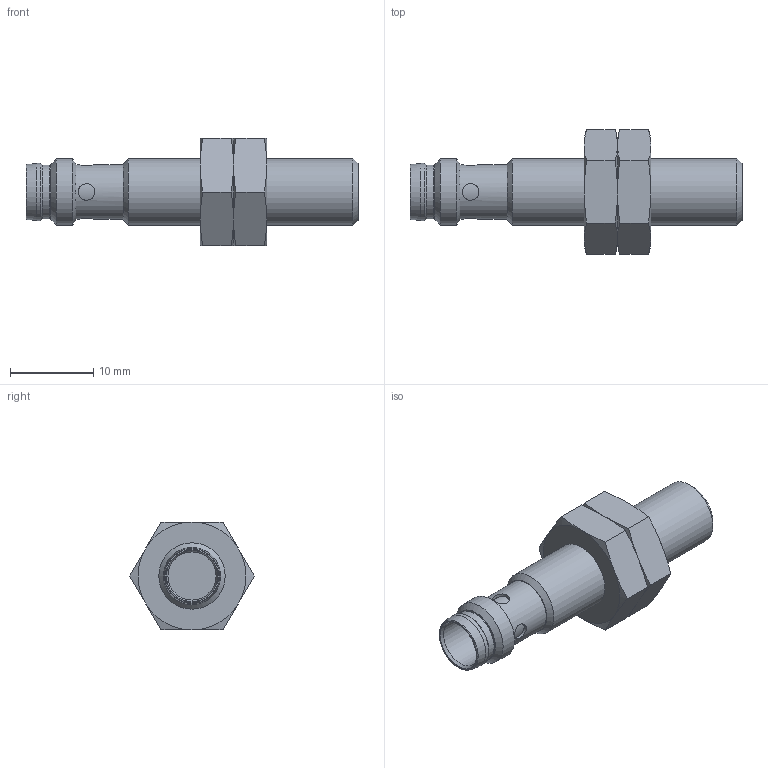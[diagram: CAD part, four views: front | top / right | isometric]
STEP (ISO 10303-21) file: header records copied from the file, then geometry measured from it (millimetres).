
FILE_DESCRIPTION( ( 'STEP AP203' ), '1' );
FILE_NAME( 'p:/temp/worker_16/temp/exporttempdir_3900_428_gGPtb/format_0/IEW200.stp', '2021-05-17T07:16:10', ( 'License CC BY-ND 4.0' ), ( 'CADENAS' ), ' ', 'PARTsolutions', ' ' );
FILE_SCHEMA( ( 'CONFIG_CONTROL_DESIGN' ) );
Length unit declared in the file: millimetre
Products named in the file (3): IEW200; _IES200_part1; _IES200_part2
Assembly tree (3 placements, depth 2):
  IEW200
    _IES200_part1
    _IES200_part2  x2
Bounding box: 40 x 15.01 x 13 mm (x, y, z)
Volume: 2568 mm3; surface area: 2096.4 mm2
Topology: 3 solids, 3 shells, 77 faces, 151 edges, 87 vertices
Faces by surface type: cone 36, plane 22, cylinder 18, torus 1
Full cylindrical faces by diameter (mm): 2 x4, 5.8 x1, 6.36 x1, 6.45 x1, 6.5 x1, 6.6 x1, 6.9 x1, 6.917 x2, 8 x2
Entity records: 1594 total; most frequent: CARTESIAN_POINT 536, DIRECTION 198, ORIENTED_EDGE 152, AXIS2_PLACEMENT_3D 96, EDGE_LOOP 88, EDGE_CURVE 76, FACE_OUTER_BOUND 68, VERTEX_POINT 58
